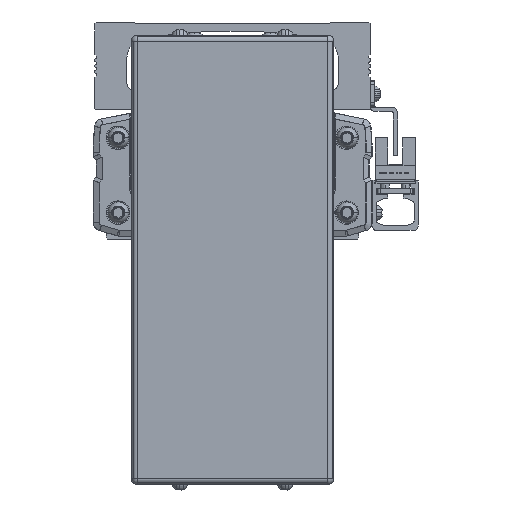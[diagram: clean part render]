
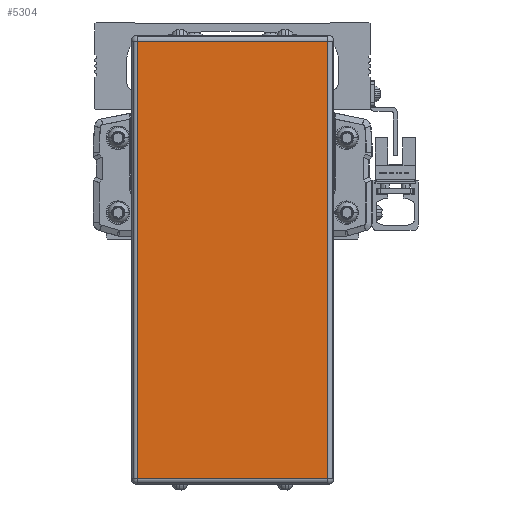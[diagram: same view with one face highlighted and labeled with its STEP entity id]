
A CAD part, front view. The second image highlights one B-rep face of the part: STEP entity #5304.
In plain terms, the highlighted planar face has unit normal (0, -1, 0).
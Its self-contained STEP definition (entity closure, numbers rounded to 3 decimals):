
#5304=ADVANCED_FACE('',(#11821),#11822,.T.);
#11821=FACE_OUTER_BOUND('',#20571,.T.);
#11822=PLANE('',#20572);
#20571=EDGE_LOOP('',(#36285,#36286,#36287,#36288));
#20572=AXIS2_PLACEMENT_3D('',#36289,#36290,#36291);
#36285=ORIENTED_EDGE('',*,*,#54283,.F.);
#36286=ORIENTED_EDGE('',*,*,#54464,.F.);
#36287=ORIENTED_EDGE('',*,*,#50871,.F.);
#36288=ORIENTED_EDGE('',*,*,#54465,.F.);
#36289=CARTESIAN_POINT('',(0.,-114.778,-50.1));
#36290=DIRECTION('',(0.0,-1.0,0.));
#36291=DIRECTION('',(1.0,0.0,0.0));
#50871=EDGE_CURVE('',#61540,#61542,#61543,.T.);
#54283=EDGE_CURVE('',#66855,#66857,#66858,.T.);
#54464=EDGE_CURVE('',#61542,#66855,#67108,.T.);
#54465=EDGE_CURVE('',#66857,#61540,#67109,.T.);
#61540=VERTEX_POINT('',#76470);
#61542=VERTEX_POINT('',#76472);
#61543=LINE('',#76473,#76474);
#66855=VERTEX_POINT('',#84446);
#66857=VERTEX_POINT('',#84448);
#66858=LINE('',#84449,#84450);
#67108=LINE('',#84859,#84860);
#67109=LINE('',#84861,#84862);
#76470=CARTESIAN_POINT('',(-32.5,-114.778,-124.7));
#76472=CARTESIAN_POINT('',(-32.5,-114.778,24.5));
#76473=CARTESIAN_POINT('',(-32.5,-114.778,-50.1));
#76474=VECTOR('',#93270,10.0);
#84446=CARTESIAN_POINT('',(32.5,-114.778,24.5));
#84448=CARTESIAN_POINT('',(32.5,-114.778,-124.7));
#84449=CARTESIAN_POINT('',(32.5,-114.778,-50.1));
#84450=VECTOR('',#97433,10.0);
#84859=CARTESIAN_POINT('',(0.,-114.778,24.5));
#84860=VECTOR('',#97636,10.0);
#84861=CARTESIAN_POINT('',(0.,-114.778,-124.7));
#84862=VECTOR('',#97637,10.0);
#93270=DIRECTION('',(0.0,0.,1.0));
#97433=DIRECTION('',(0.0,0.,-1.0));
#97636=DIRECTION('',(1.0,0.0,0.0));
#97637=DIRECTION('',(-1.0,0.0,0.0));
